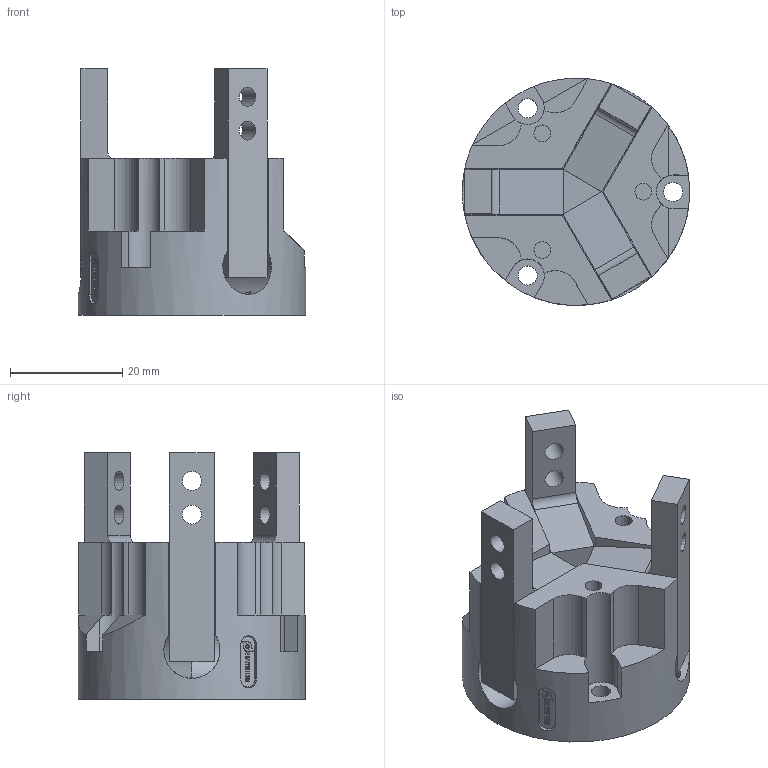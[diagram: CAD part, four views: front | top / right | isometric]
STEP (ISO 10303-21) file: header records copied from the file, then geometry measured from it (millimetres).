
FILE_DESCRIPTION(/* description */ ('STEP AP214'),/* implementation_level */ '2;1');
FILE_NAME(/* name */ 'SCHUNK-0305204 SGW 40_ 010',/* time_stamp */ '2026-03-26T08:16:37+01:00',/* author */ ('License CC BY-ND 4.0'),/* organization */ ('CADENAS'),/* preprocessor_version */ 'ST-DEVELOPER v20',/* originating_system */ 'PARTsolutions',/* authorisation */ ' ');
FILE_SCHEMA (('AUTOMOTIVE_DESIGN {1 0 10303 214 3 1 1}'));
Length unit declared in the file: millimetre
Products named in the file (4): SCHUNK-0305204 SGW 40, 010; SCHUNK-0305204 Gehaeuse SGW 40; SCHUNK-9646132 Finger SGB 32; SCHUNK-9941369 Typenschild 3x9x0.3
Assembly tree (5 placements, depth 2):
  SCHUNK-0305204 SGW 40, 010
    SCHUNK-0305204 Gehaeuse SGW 40
    SCHUNK-9646132 Finger SGB 32  x3
    SCHUNK-9941369 Typenschild 3x9x0.3
Bounding box: 40.5 x 40.46 x 43.9 mm (x, y, z)
Volume: 26539.9 mm3; surface area: 13712.2 mm2
Topology: 5 solids, 5 shells, 228 faces, 624 edges, 418 vertices
Faces by surface type: plane 156, cylinder 72
Full cylindrical faces by diameter (mm): 0.48 x1, 1 x1, 2 x2, 2.459 x2, 3 x3, 3.4 x9, 4 x3, 4.1 x2, 5 x1, 7 x1, 10 x3, 40.5 x1
Entity records: 6977 total; most frequent: CARTESIAN_POINT 1172, DIRECTION 1045, ORIENTED_EDGE 1016, EDGE_CURVE 508, VERTEX_POINT 351, LINE 349, VECTOR 349, AXIS2_PLACEMENT_3D 348
